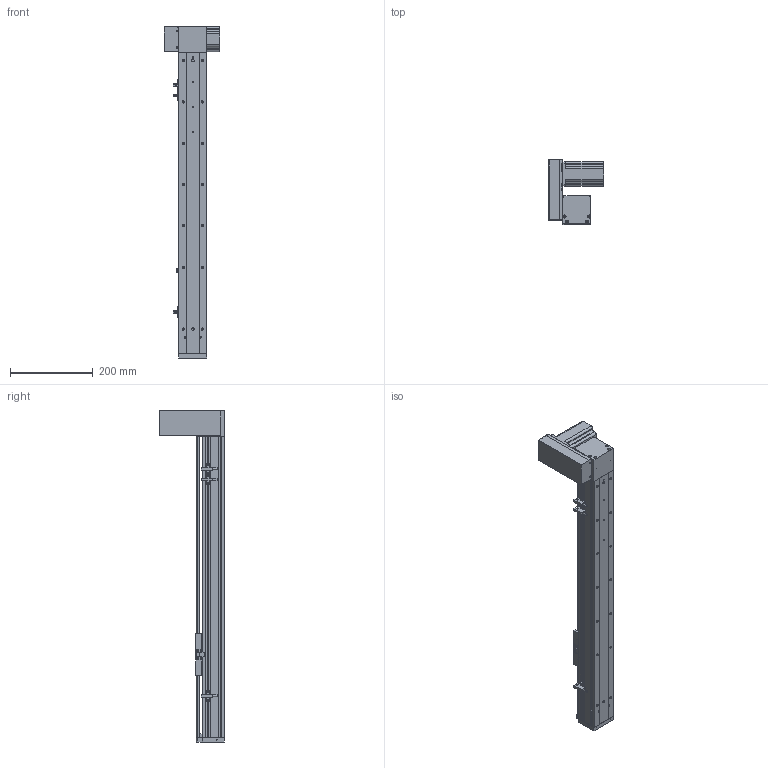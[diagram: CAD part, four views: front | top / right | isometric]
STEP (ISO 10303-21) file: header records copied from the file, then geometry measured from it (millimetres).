
FILE_DESCRIPTION (( 'STEP AP203' ), '1' );
FILE_NAME ('ML68-S550-UR.STEP', '2016-08-05T00:49:27', ( '' ), ( '' ), 'SwSTEP 2.0', 'SolidWorks 2014', '' );
FILE_SCHEMA (( 'CONFIG_CONTROL_DESIGN' ));
Length unit declared in the file: millimetre
Products named in the file (12): ML68-BL傷啣; 葩璃 ML68菁釱^ML68-S550-UR; 60換覜結え; ML68雄赽釱; ML68奻裔^ML68-S550-UR; ML68滅鳥啣盓傅輸; ML68傷啣; 三协电机MH201N2_預設; ML68-S550-UR; QS68左右折电机板罩子; 換覜ん; QS68酘衵殏萇儂啣
Assembly tree (13 placements, depth 2):
  ML68-S550-UR
    葩璃 ML68菁釱^ML68-S550-UR
    ML68奻裔^ML68-S550-UR
    ML68傷啣
    ML68-BL傷啣
    60換覜結え
    換覜ん  x3
    三协电机MH201N2_預設
    ML68雄赽釱
    QS68酘衵殏萇儂啣
    QS68左右折电机板罩子
    ML68滅鳥啣盓傅輸
Bounding box: 133.5 x 157 x 804 mm (x, y, z)
Volume: 1601313.9 mm3; surface area: 589928.1 mm2
Topology: 13 solids, 13 shells, 905 faces, 2476 edges, 1569 vertices
Faces by surface type: cylinder 412, plane 397, cone 96
Entity records: 28640 total; most frequent: CARTESIAN_POINT 5466, DIRECTION 4690, ORIENTED_EDGE 4452, EDGE_CURVE 2226, AXIS2_PLACEMENT_3D 1693, VERTEX_POINT 1457, LINE 1304, VECTOR 1304
